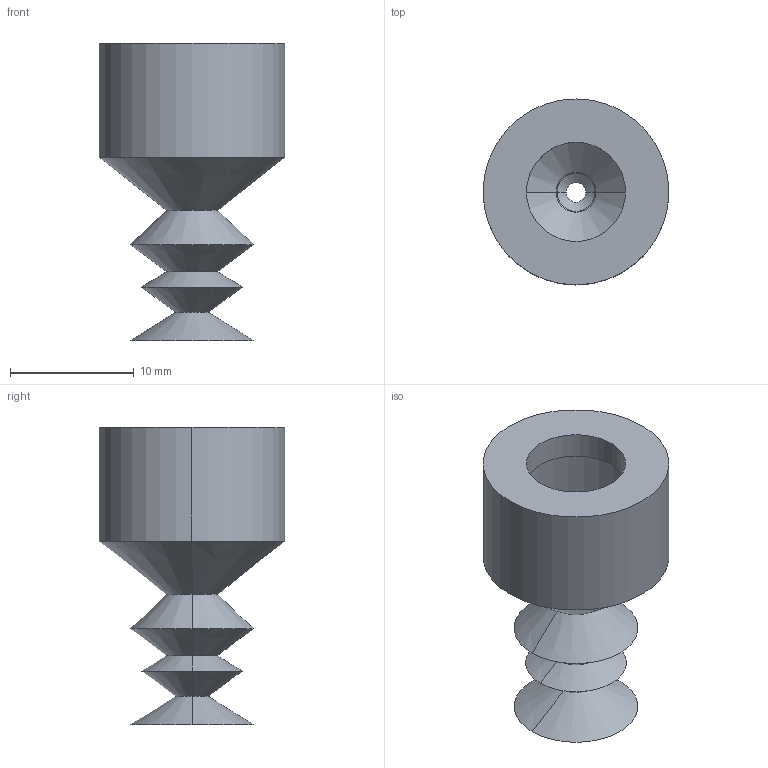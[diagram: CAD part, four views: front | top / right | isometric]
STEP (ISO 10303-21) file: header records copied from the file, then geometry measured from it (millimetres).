
FILE_DESCRIPTION (( 'STEP AP214' ), '1' );
FILE_NAME ('VSH3-M10.STEP', '2019-12-02T08:25:42', ( '微软用户' ), ( '微软中国' ), 'SwSTEP 2.0', 'SolidWorks 2016', '' );
FILE_SCHEMA (( 'AUTOMOTIVE_DESIGN' ));
Length unit declared in the file: millimetre
Products named in the file (1): VSH3-M10
Bounding box: 15 x 15 x 24 mm (x, y, z)
Volume: 584.1 mm3; surface area: 2114.6 mm2
Topology: 1 solids, 1 shells, 36 faces, 72 edges, 40 vertices
Faces by surface type: cone 24, cylinder 8, plane 4
Entity records: 962 total; most frequent: DIRECTION 186, CARTESIAN_POINT 149, ORIENTED_EDGE 144, AXIS2_PLACEMENT_3D 77, EDGE_CURVE 72, VERTEX_POINT 40, EDGE_LOOP 40, CIRCLE 40
